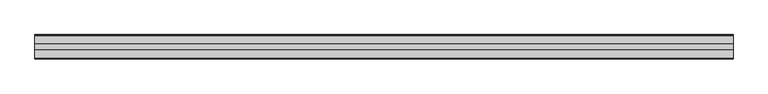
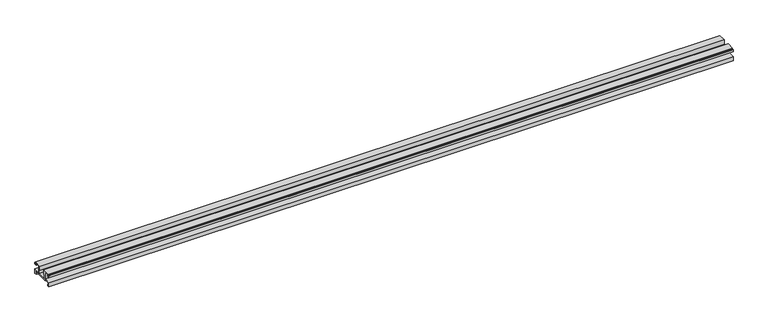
"""IFC4 building model written with IfcOpenShell, lengths in millimetres: proxy geometry, Weiku - Montante - Acoplamento vidro : Weiku - Montante - Acoplamento vidro."""

from ifc_helpers import new_model, si_unit, frame, origin, place, context, project, spatial, polyline, outline, extrude, source, transform, mapped, element, save


def generic_models_8725e9bf(model_context):
    return source(origin(), model_context, "Body", "SweptSolid", [
        extrude(outline(polyline([(-35.405, 5.1494), (-35.405, 6.8004), (-45.741, 6.8004), (-45.741, 2.6094), (-43.8784, 2.6094), (-43.8784, 0.0), (-47.9014508, 0.0), (-47.9014508, 8.79), (-34.946, 8.79), (-34.946, 23.3104), (-43.5397, 23.3104), (-43.5397, 19.204), (-47.9, 19.204), (-47.9, 22.8024), (-46.9264, 22.8024), (-46.9264, 20.3894), (-44.725, 20.3894), (-44.725, 23.9454), (-45.5264504, 23.9454), (-45.5264504, 25.3), (-30.4164, 25.3), (-30.4164, 16.283), (-32.4484, 16.283), (-32.4484, 8.8), (-15.4516, 8.8), (-15.4516, 16.283), (-17.4836, 16.283), (-17.4836, 25.3), (-2.3735496, 25.3), (-2.3735496, 23.9454), (-3.175, 23.9454), (-3.175, 20.3894), (-0.9736, 20.3894), (-0.9736, 22.8024), (0.0, 22.8024), (0.0, 19.204), (-4.3603, 19.204), (-4.3603, 23.3104), (-12.954, 23.3104), (-12.954, 8.79), (0.0014508, 8.79), (0.0014508, 0.0), (-4.0216, 0.0), (-4.0216, 2.6094), (-2.159, 2.6094), (-2.159, 6.8004), (-12.495, 6.8004), (-12.495, 5.1494), (-35.405, 5.1494)])), frame((-681.5666667, 0.0, 0.0), z_axis=(1.0, 0.0, 0.0), x_axis=(0.0, 1.0, 0.0)), (0.0, 0.0, 1.0), 1363.1333333),
    ])


if __name__ == "__main__":
    model = new_model("IFC4")
    model_context = context("Model", 3, world=origin())
    ifc_project = project(units=[si_unit("LENGTHUNIT", "METRE", prefix="MILLI")], contexts=[model_context])
    site = spatial("IfcSite", under=ifc_project)
    building = spatial("IfcBuilding", under=site)
    placement = place(None, origin())
    generic_models_shape = generic_models_8725e9bf(model_context)
    element("IfcBuildingElementProxy", 1, Name="Weiku - Montante - Acoplamento vidro : Weiku - Montante - Acoplamento vidro", ObjectType="Weiku - Montante - Acoplamento vidro : Weiku - Montante - Acoplamento vidro", at=placement, inside=building, context=model_context, shape_type="MappedRepresentation", body=[
        mapped(generic_models_shape, transform((0.0, 0.0, 0.0), x_axis=(1.0, 0.0, 0.0), y_axis=(0.0, 1.0, 0.0), z_axis=(0.0, 0.0, 1.0))),
    ])
    save(model, "model.ifc")
